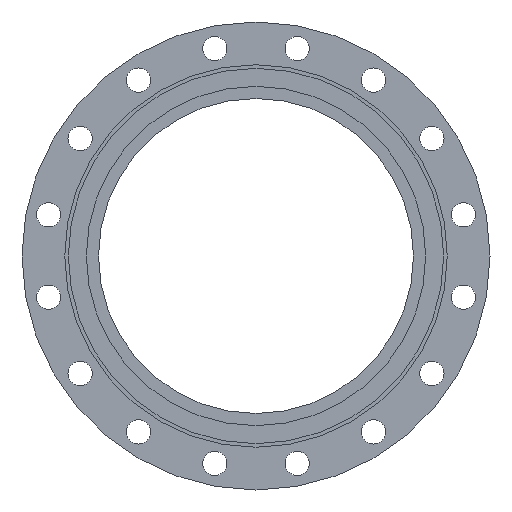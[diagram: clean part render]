
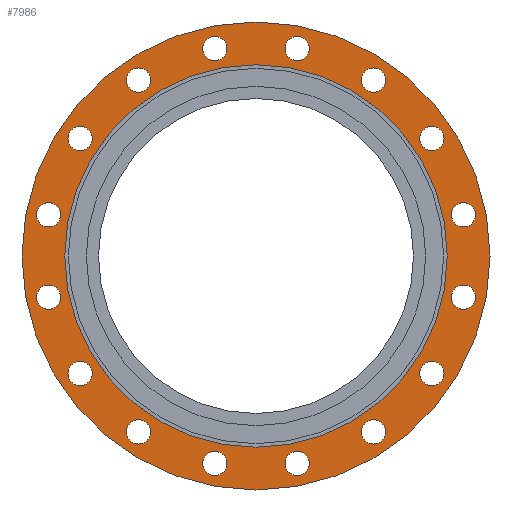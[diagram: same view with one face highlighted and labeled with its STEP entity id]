
A CAD part, left-side view. The second image highlights one B-rep face of the part: STEP entity #7986.
In plain terms, the highlighted planar face has unit normal (-1, 0, 0).
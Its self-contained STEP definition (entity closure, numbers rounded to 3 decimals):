
#7986=ADVANCED_FACE('',(#14403,#14405,#14407,#14409,#14411,#14413,#14415,#14417,
#14419,#14421,#14423,#14425,#14427,#14429,#14431,#14433,#14435,#14437),#14439,.T.);
#14403=FACE_BOUND('',#14404,.T.);
#14404=EDGE_LOOP('',(#19523));
#14405=FACE_BOUND('',#14406,.T.);
#14406=EDGE_LOOP('',(#19524));
#14407=FACE_BOUND('',#14408,.T.);
#14408=EDGE_LOOP('',(#19525));
#14409=FACE_BOUND('',#14410,.T.);
#14410=EDGE_LOOP('',(#19526));
#14411=FACE_BOUND('',#14412,.T.);
#14412=EDGE_LOOP('',(#19527));
#14413=FACE_BOUND('',#14414,.T.);
#14414=EDGE_LOOP('',(#19528));
#14415=FACE_BOUND('',#14416,.T.);
#14416=EDGE_LOOP('',(#19529));
#14417=FACE_BOUND('',#14418,.T.);
#14418=EDGE_LOOP('',(#19530));
#14419=FACE_BOUND('',#14420,.T.);
#14420=EDGE_LOOP('',(#19531));
#14421=FACE_BOUND('',#14422,.T.);
#14422=EDGE_LOOP('',(#19532));
#14423=FACE_BOUND('',#14424,.T.);
#14424=EDGE_LOOP('',(#19533));
#14425=FACE_BOUND('',#14426,.T.);
#14426=EDGE_LOOP('',(#19534));
#14427=FACE_BOUND('',#14428,.T.);
#14428=EDGE_LOOP('',(#19535));
#14429=FACE_BOUND('',#14430,.T.);
#14430=EDGE_LOOP('',(#19536));
#14431=FACE_BOUND('',#14432,.T.);
#14432=EDGE_LOOP('',(#19537));
#14433=FACE_BOUND('',#14434,.T.);
#14434=EDGE_LOOP('',(#19538));
#14435=FACE_BOUND('',#14436,.T.);
#14436=EDGE_LOOP('',(#19539));
#14437=FACE_BOUND('',#14438,.T.);
#14438=EDGE_LOOP('',(#19540,#19541));
#14439=PLANE('',#14440);
#14440=AXIS2_PLACEMENT_3D('',#14441,#14442,#14443);
#14441=CARTESIAN_POINT('',(50.695,233.253,0.));
#14442=DIRECTION('',(-1.,0.,0.));
#14443=DIRECTION('',(0.,0.,1.));
#19523=ORIENTED_EDGE('',*,*,#22090,.T.);
#19524=ORIENTED_EDGE('',*,*,#22058,.F.);
#19525=ORIENTED_EDGE('',*,*,#22060,.F.);
#19526=ORIENTED_EDGE('',*,*,#22062,.F.);
#19527=ORIENTED_EDGE('',*,*,#22064,.F.);
#19528=ORIENTED_EDGE('',*,*,#22066,.F.);
#19529=ORIENTED_EDGE('',*,*,#22068,.F.);
#19530=ORIENTED_EDGE('',*,*,#22070,.F.);
#19531=ORIENTED_EDGE('',*,*,#22072,.F.);
#19532=ORIENTED_EDGE('',*,*,#22074,.F.);
#19533=ORIENTED_EDGE('',*,*,#22076,.F.);
#19534=ORIENTED_EDGE('',*,*,#22078,.F.);
#19535=ORIENTED_EDGE('',*,*,#22080,.F.);
#19536=ORIENTED_EDGE('',*,*,#22082,.F.);
#19537=ORIENTED_EDGE('',*,*,#22084,.F.);
#19538=ORIENTED_EDGE('',*,*,#22086,.F.);
#19539=ORIENTED_EDGE('',*,*,#22088,.F.);
#19540=ORIENTED_EDGE('',*,*,#20389,.T.);
#19541=ORIENTED_EDGE('',*,*,#20390,.T.);
#20389=EDGE_CURVE('',#23785,#23786,#23787,.T.);
#20390=EDGE_CURVE('',#23786,#23785,#23788,.T.);
#22058=EDGE_CURVE('',#26310,#26310,#26311,.T.);
#22060=EDGE_CURVE('',#26314,#26314,#26315,.T.);
#22062=EDGE_CURVE('',#26318,#26318,#26319,.T.);
#22064=EDGE_CURVE('',#26322,#26322,#26323,.T.);
#22066=EDGE_CURVE('',#26326,#26326,#26327,.T.);
#22068=EDGE_CURVE('',#26330,#26330,#26331,.T.);
#22070=EDGE_CURVE('',#26334,#26334,#26335,.T.);
#22072=EDGE_CURVE('',#26338,#26338,#26339,.T.);
#22074=EDGE_CURVE('',#26342,#26342,#26343,.T.);
#22076=EDGE_CURVE('',#26346,#26346,#26347,.T.);
#22078=EDGE_CURVE('',#26350,#26350,#26351,.T.);
#22080=EDGE_CURVE('',#26354,#26354,#26355,.T.);
#22082=EDGE_CURVE('',#26358,#26358,#26359,.T.);
#22084=EDGE_CURVE('',#26362,#26362,#26363,.T.);
#22086=EDGE_CURVE('',#26366,#26366,#26367,.T.);
#22088=EDGE_CURVE('',#26370,#26370,#26371,.T.);
#22090=EDGE_CURVE('',#26374,#26374,#26375,.T.);
#23785=VERTEX_POINT('',#31932);
#23786=VERTEX_POINT('',#31933);
#23787=CIRCLE('',#31934,212.5);
#23788=CIRCLE('',#31938,212.5);
#26310=VERTEX_POINT('',#37838);
#26311=CIRCLE('',#37839,13.5);
#26314=VERTEX_POINT('',#37848);
#26315=CIRCLE('',#37849,13.5);
#26318=VERTEX_POINT('',#37858);
#26319=CIRCLE('',#37859,13.5);
#26322=VERTEX_POINT('',#37868);
#26323=CIRCLE('',#37869,13.5);
#26326=VERTEX_POINT('',#37878);
#26327=CIRCLE('',#37879,13.5);
#26330=VERTEX_POINT('',#37888);
#26331=CIRCLE('',#37889,13.5);
#26334=VERTEX_POINT('',#37898);
#26335=CIRCLE('',#37899,13.5);
#26338=VERTEX_POINT('',#37908);
#26339=CIRCLE('',#37909,13.5);
#26342=VERTEX_POINT('',#37918);
#26343=CIRCLE('',#37919,13.5);
#26346=VERTEX_POINT('',#37928);
#26347=CIRCLE('',#37929,13.5);
#26350=VERTEX_POINT('',#37938);
#26351=CIRCLE('',#37939,13.5);
#26354=VERTEX_POINT('',#37948);
#26355=CIRCLE('',#37949,13.5);
#26358=VERTEX_POINT('',#37958);
#26359=CIRCLE('',#37959,13.5);
#26362=VERTEX_POINT('',#37968);
#26363=CIRCLE('',#37969,13.5);
#26366=VERTEX_POINT('',#37978);
#26367=CIRCLE('',#37979,13.5);
#26370=VERTEX_POINT('',#37988);
#26371=CIRCLE('',#37989,13.5);
#26374=VERTEX_POINT('',#37998);
#26375=CIRCLE('',#37999,260.);
#31932=CARTESIAN_POINT('',(50.695,20.753,0.));
#31933=CARTESIAN_POINT('',(50.695,445.753,0.));
#31934=AXIS2_PLACEMENT_3D('',#31935,#31936,#31937);
#31935=CARTESIAN_POINT('',(50.695,233.253,0.));
#31936=DIRECTION('',(1.,0.,0.));
#31937=DIRECTION('',(0.,-1.,0.));
#31938=AXIS2_PLACEMENT_3D('',#31939,#31940,#31941);
#31939=CARTESIAN_POINT('',(50.695,233.253,0.));
#31940=DIRECTION('',(1.,0.,0.));
#31941=DIRECTION('',(0.,1.,0.));
#37838=CARTESIAN_POINT('',(50.695,428.648,-117.059));
#37839=AXIS2_PLACEMENT_3D('',#37840,#37841,#37842);
#37840=CARTESIAN_POINT('',(50.695,428.648,-130.559));
#37841=DIRECTION('',(-1.,0.,0.));
#37842=DIRECTION('',(0.,0.,1.));
#37848=CARTESIAN_POINT('',(50.695,463.738,59.346));
#37849=AXIS2_PLACEMENT_3D('',#37850,#37851,#37852);
#37850=CARTESIAN_POINT('',(50.695,463.738,45.846));
#37851=DIRECTION('',(-1.,0.,0.));
#37852=DIRECTION('',(0.,0.,1.));
#37858=CARTESIAN_POINT('',(50.695,363.812,208.895));
#37859=AXIS2_PLACEMENT_3D('',#37860,#37861,#37862);
#37860=CARTESIAN_POINT('',(50.695,363.812,195.395));
#37861=DIRECTION('',(-1.,0.,0.));
#37862=DIRECTION('',(0.,0.,1.));
#37868=CARTESIAN_POINT('',(50.695,187.407,243.985));
#37869=AXIS2_PLACEMENT_3D('',#37870,#37871,#37872);
#37870=CARTESIAN_POINT('',(50.695,187.407,230.485));
#37871=DIRECTION('',(-1.,0.,0.));
#37872=DIRECTION('',(0.,0.,1.));
#37878=CARTESIAN_POINT('',(50.695,37.858,144.059));
#37879=AXIS2_PLACEMENT_3D('',#37880,#37881,#37882);
#37880=CARTESIAN_POINT('',(50.695,37.858,130.559));
#37881=DIRECTION('',(-1.,0.,0.));
#37882=DIRECTION('',(0.,0.,1.));
#37888=CARTESIAN_POINT('',(50.695,2.769,-32.346));
#37889=AXIS2_PLACEMENT_3D('',#37890,#37891,#37892);
#37890=CARTESIAN_POINT('',(50.695,2.769,-45.846));
#37891=DIRECTION('',(-1.,0.,0.));
#37892=DIRECTION('',(0.,0.,1.));
#37898=CARTESIAN_POINT('',(50.695,102.694,-181.895));
#37899=AXIS2_PLACEMENT_3D('',#37900,#37901,#37902);
#37900=CARTESIAN_POINT('',(50.695,102.694,-195.395));
#37901=DIRECTION('',(-1.,0.,0.));
#37902=DIRECTION('',(0.,0.,1.));
#37908=CARTESIAN_POINT('',(50.695,279.099,-216.985));
#37909=AXIS2_PLACEMENT_3D('',#37910,#37911,#37912);
#37910=CARTESIAN_POINT('',(50.695,279.099,-230.485));
#37911=DIRECTION('',(-1.,0.,0.));
#37912=DIRECTION('',(0.,0.,1.));
#37918=CARTESIAN_POINT('',(50.695,187.407,-216.985));
#37919=AXIS2_PLACEMENT_3D('',#37920,#37921,#37922);
#37920=CARTESIAN_POINT('',(50.695,187.407,-230.485));
#37921=DIRECTION('',(-1.,0.,0.));
#37922=DIRECTION('',(0.,0.,1.));
#37928=CARTESIAN_POINT('',(50.695,37.858,-117.059));
#37929=AXIS2_PLACEMENT_3D('',#37930,#37931,#37932);
#37930=CARTESIAN_POINT('',(50.695,37.858,-130.559));
#37931=DIRECTION('',(-1.,0.,0.));
#37932=DIRECTION('',(0.,0.,1.));
#37938=CARTESIAN_POINT('',(50.695,2.769,59.346));
#37939=AXIS2_PLACEMENT_3D('',#37940,#37941,#37942);
#37940=CARTESIAN_POINT('',(50.695,2.769,45.846));
#37941=DIRECTION('',(-1.,0.,0.));
#37942=DIRECTION('',(0.,0.,1.));
#37948=CARTESIAN_POINT('',(50.695,102.694,208.895));
#37949=AXIS2_PLACEMENT_3D('',#37950,#37951,#37952);
#37950=CARTESIAN_POINT('',(50.695,102.694,195.395));
#37951=DIRECTION('',(-1.,0.,0.));
#37952=DIRECTION('',(0.,0.,1.));
#37958=CARTESIAN_POINT('',(50.695,279.099,243.985));
#37959=AXIS2_PLACEMENT_3D('',#37960,#37961,#37962);
#37960=CARTESIAN_POINT('',(50.695,279.099,230.485));
#37961=DIRECTION('',(-1.,0.,0.));
#37962=DIRECTION('',(0.,0.,1.));
#37968=CARTESIAN_POINT('',(50.695,428.648,144.059));
#37969=AXIS2_PLACEMENT_3D('',#37970,#37971,#37972);
#37970=CARTESIAN_POINT('',(50.695,428.648,130.559));
#37971=DIRECTION('',(-1.,0.,0.));
#37972=DIRECTION('',(0.,0.,1.));
#37978=CARTESIAN_POINT('',(50.695,463.738,-32.346));
#37979=AXIS2_PLACEMENT_3D('',#37980,#37981,#37982);
#37980=CARTESIAN_POINT('',(50.695,463.738,-45.846));
#37981=DIRECTION('',(-1.,0.,0.));
#37982=DIRECTION('',(0.,0.,1.));
#37988=CARTESIAN_POINT('',(50.695,363.812,-181.895));
#37989=AXIS2_PLACEMENT_3D('',#37990,#37991,#37992);
#37990=CARTESIAN_POINT('',(50.695,363.812,-195.395));
#37991=DIRECTION('',(-1.,0.,0.));
#37992=DIRECTION('',(0.,0.,1.));
#37998=CARTESIAN_POINT('',(50.695,233.253,260.));
#37999=AXIS2_PLACEMENT_3D('',#38000,#38001,#38002);
#38000=CARTESIAN_POINT('',(50.695,233.253,0.));
#38001=DIRECTION('',(-1.,0.,0.));
#38002=DIRECTION('',(0.,0.,1.));
